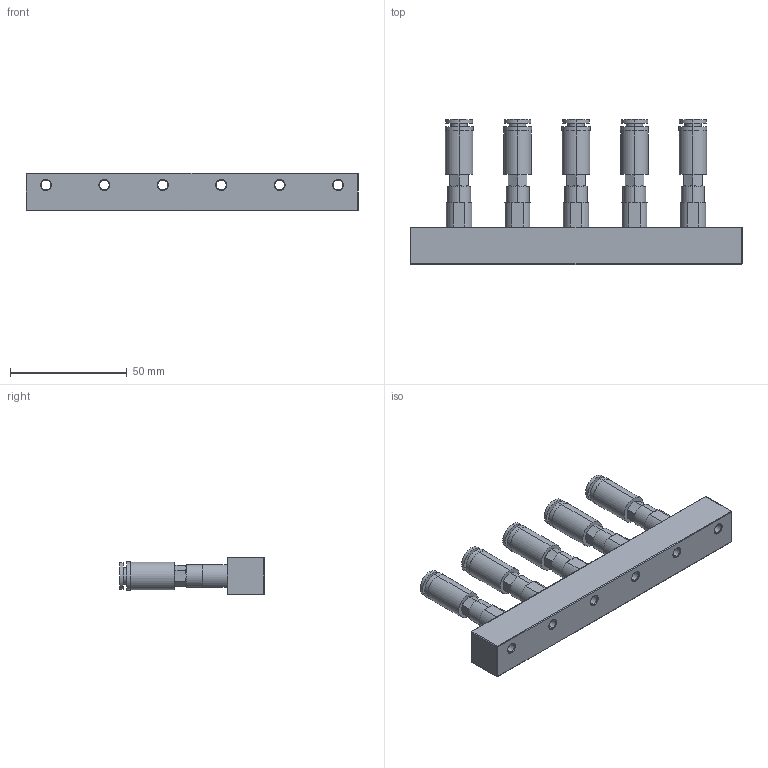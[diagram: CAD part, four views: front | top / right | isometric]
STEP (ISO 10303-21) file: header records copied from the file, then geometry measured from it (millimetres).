
FILE_DESCRIPTION (( 'STEP AP203' ), '1' );
FILE_NAME ('1.STEP', '2024-10-22T09:15:13', ( '' ), ( '' ), 'SwSTEP 2.0', 'SolidWorks 2018', '' );
FILE_SCHEMA (( 'CONFIG_CONTROL_DESIGN' ));
Length unit declared in the file: millimetre
Products named in the file (3): KCH06-M5; 1; 等砃諉芛耀輸
Assembly tree (6 placements, depth 2):
  1
    等砃諉芛耀輸
    KCH06-M5  x5
Bounding box: 142 x 62 x 16 mm (x, y, z)
Volume: 51974.2 mm3; surface area: 22950.3 mm2
Topology: 6 solids, 6 shells, 348 faces, 732 edges, 434 vertices
Faces by surface type: cylinder 126, plane 112, cone 90, torus 12, sphere 8
Entity records: 4775 total; most frequent: DIRECTION 836, CARTESIAN_POINT 783, ORIENTED_EDGE 680, AXIS2_PLACEMENT_3D 351, EDGE_CURVE 340, VERTEX_POINT 202, EDGE_LOOP 190, CIRCLE 182
